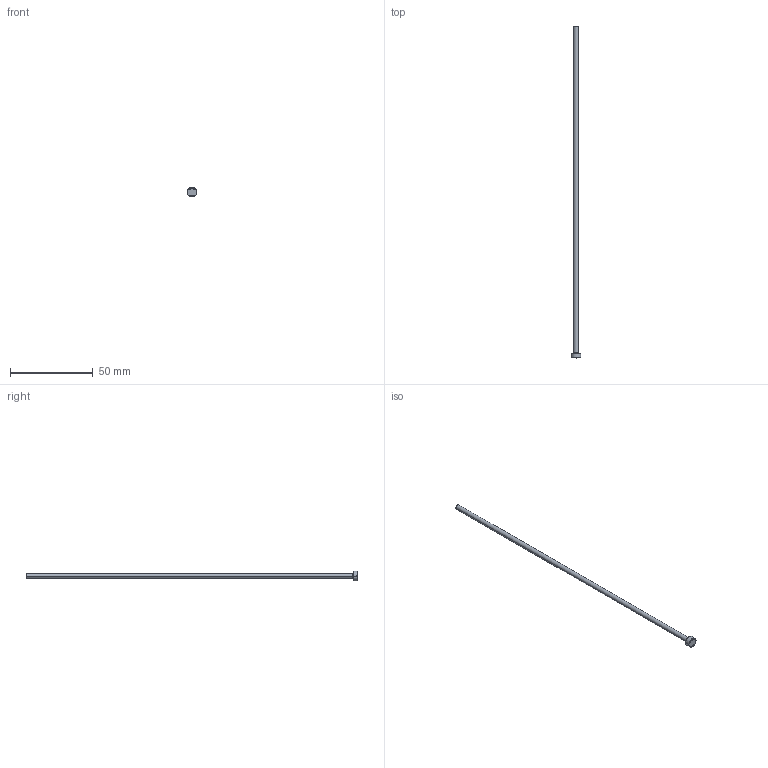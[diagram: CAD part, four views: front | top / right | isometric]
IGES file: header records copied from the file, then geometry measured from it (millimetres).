
Start section: SolidWorks IGES file using analytic representation for surfaces
Global section: file name: C:\Users\User\Downloads\Matripeça 31-08 tar\PB - PINO EXTRATOR TIPO _B_ (CATÁLOGO)\PB03,0\PB03,0200.IGS; native system: SolidWorks 2024; preprocessor: SolidWorks 2024; author: User; date: 260901.141558; units: millimetre
Bounding box: 6 x 200 x 6 mm (x, y, z)
Surface area: 1973.4 mm2 (no closed solid volume)
Topology: 0 solids, 0 shells, 405 faces, 3308 edges, 3308 vertices
Faces by surface type: bspline 391, revolution 14
